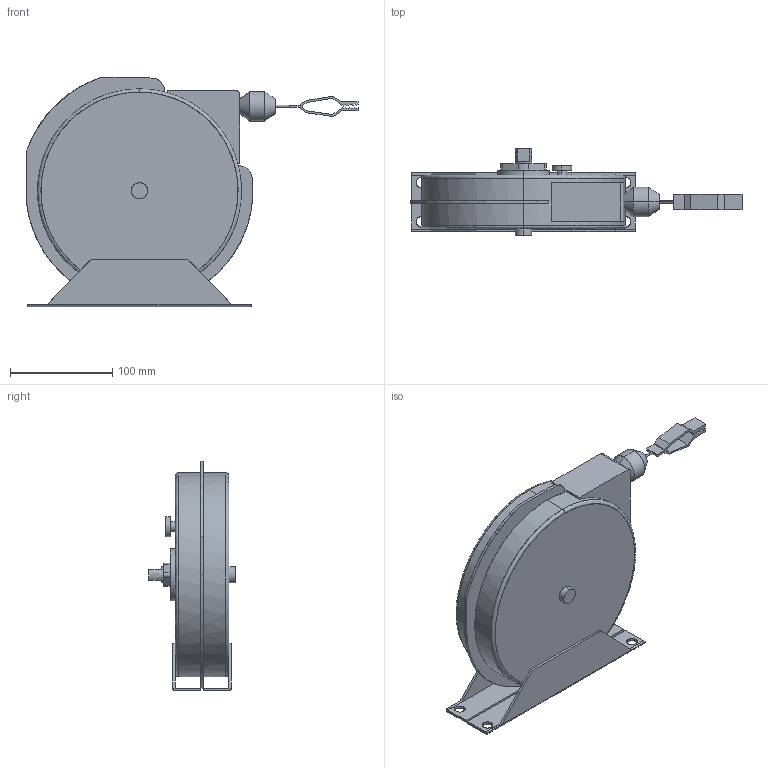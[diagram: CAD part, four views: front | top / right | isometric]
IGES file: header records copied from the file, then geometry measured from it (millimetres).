
Start section: Comment
Global section: file name: G3050.igs; native system:  By UGS Corp.; preprocessor: XPlus GENERIC/IGES 3.0; author: Author; organization: Title; date: 20120613.145350; units: millimetre
Bounding box: 325.32 x 85.09 x 224.7 mm (x, y, z)
Surface area: 169271.5 mm2 (no closed solid volume)
Topology: 0 solids, 0 shells, 140 faces, 750 edges, 750 vertices
Faces by surface type: bspline 140
